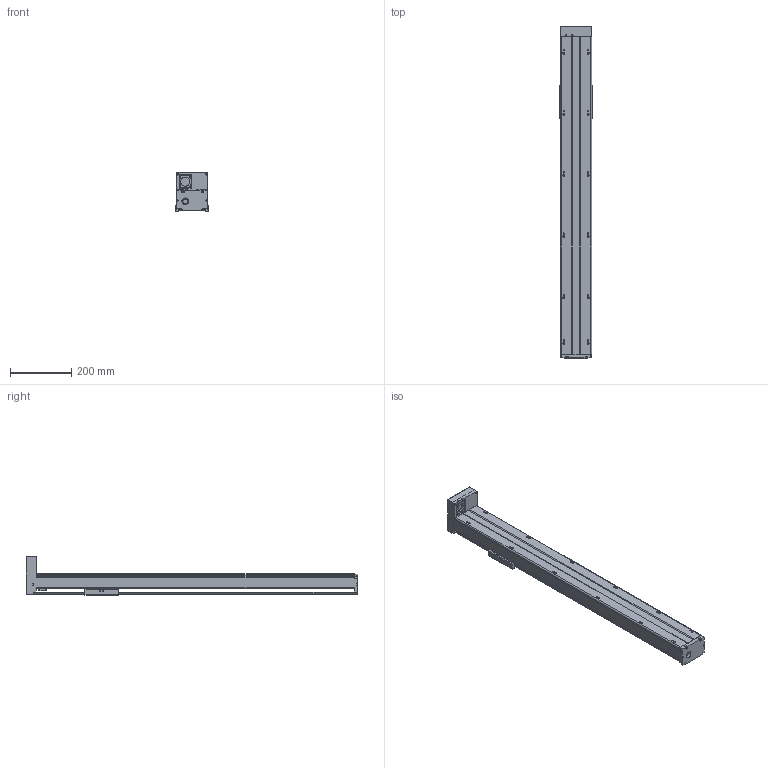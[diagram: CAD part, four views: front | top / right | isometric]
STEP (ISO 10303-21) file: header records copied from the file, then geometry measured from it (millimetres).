
FILE_DESCRIPTION(/* description */ (''),/* implementation_level */ '2;1');
FILE_NAME(/* name */ 'TKA100-FD-850_asm1.stp',/* time_stamp */ '2016-05-16T15:29:19+08:00',/* author */ (''),/* organization */ (''),/* preprocessor_version */ 'ST-DEVELOPER v15',/* originating_system */ 'SIEMENS PLM Software NX 8.5',/* authorisation */ '');
FILE_SCHEMA (('AUTOMOTIVE_DESIGN { 1 0 10303 214 3 1 1 1 }'));
Length unit declared in the file: millimetre
Products named in the file (3): 200-02; 200-01; TKA100-FD-850_asm1
Assembly tree (2 placements, depth 2):
  TKA100-FD-850_asm1
    200-01
    200-02
Bounding box: 110 x 1086 x 127 mm (x, y, z)
Volume: 2273252 mm3; surface area: 790201 mm2
Topology: 2 solids, 13 shells, 801 faces, 2068 edges, 1344 vertices
Faces by surface type: cylinder 311, plane 301, cone 125, torus 38, bspline 26
Full cylindrical faces by diameter (mm): 2.5 x6, 2.6 x8, 3.3 x10, 3.4 x10, 3.8 x8, 4.2 x21, 4.3 x4, 4.5 x8, 5 x1, 5.5 x22, 6.6 x4, 8 x5, 9 x4, 10 x14, 11 x4, 12 x7, 15.3 x1, 16 x1, 22 x1, 24 x1, 28 x4, 30 x1, 33 x1
Entity records: 28528 total; most frequent: CARTESIAN_POINT 10059, DIRECTION 3858, ORIENTED_EDGE 3484, EDGE_CURVE 1742, AXIS2_PLACEMENT_3D 1548, VERTEX_POINT 1254, EDGE_LOOP 1152, ADVANCED_FACE 801
